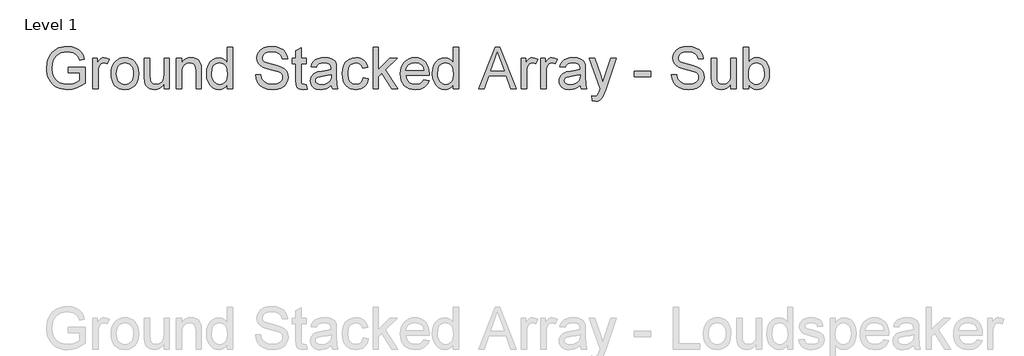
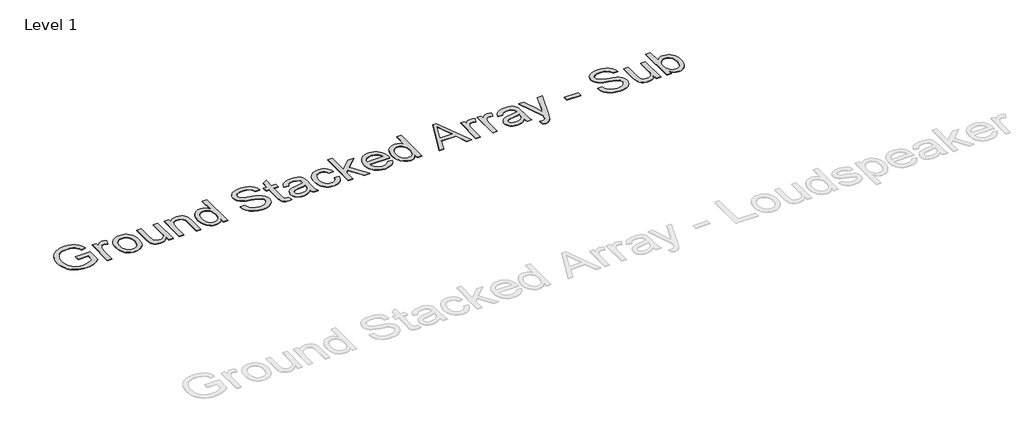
# One storey, part 17 of 31: 1 proxy.
"""IFC4 building model written with IfcOpenShell, lengths in millimetres."""

import ifcopenshell
import ifcopenshell.guid

model = None  # the IFC model being written
_history = None  # IfcOwnerHistory: only IFC2X3 demands one
_inside = {}  # id of a spatial element -> (the spatial element, [elements in it])
_under = {}  # id of a project, library or spatial element -> (it, [spatial elements below it])
_declared = {}  # id of a project -> (the project, [libraries it declares])
_typed = {}  # id of a type object -> (the type object, [elements of that type])
_made_of = {}  # id of a material, layer set ... -> (it, [elements and type objects made of it])


def new_model(schema):
    """Start an empty IFC model of exactly this schema.

    Asked for "IFC4X3", IfcOpenShell would pick the latest addendum, in which some entities
    have other attributes; the version numbers below select the first issue.
    IFC2X3 requires an IfcOwnerHistory on every rooted entity: one is made here for all.
    """
    global model, _history
    if schema == "IFC4X3":
        model = ifcopenshell.file(schema_version=(4, 3, 0, 0))
    else:
        model = ifcopenshell.file(schema=schema)
    _inside.clear()
    _under.clear()
    _declared.clear()
    _typed.clear()
    _made_of.clear()
    _history = None
    if model.schema == "IFC2X3":
        org = make("IfcOrganization", Name="unknown")
        user = make(
            "IfcPersonAndOrganization",
            ThePerson=make("IfcPerson", FamilyName="unknown"),
            TheOrganization=org,
        )
        app = make(
            "IfcApplication",
            ApplicationDeveloper=org,
            Version="unknown",
            ApplicationFullName="unknown",
            ApplicationIdentifier="unknown",
        )
        _history = make(
            "IfcOwnerHistory",
            OwningUser=user,
            OwningApplication=app,
            ChangeAction="ADDED",
            CreationDate=0,
        )
    return model


def make(cls, **values):
    """One entity of the class cls with the attributes given. An attribute that is None is left unset."""
    return model.create_entity(
        cls, **{name: value for name, value in values.items() if value is not None}
    )


def rooted(cls, **values):
    """An entity with a GlobalId (a new one), such as an element, a storey or a relation."""
    return make(cls, GlobalId=ifcopenshell.guid.new(), OwnerHistory=_history, **values)


def si_unit(unit_type, name, prefix=None):
    """IfcSIUnit, for example si_unit("LENGTHUNIT", "METRE", prefix="MILLI")."""
    return make("IfcSIUnit", UnitType=unit_type, Prefix=prefix, Name=name)


def assignment(units):
    """IfcUnitAssignment: the units of a project."""
    return None if units is None else make("IfcUnitAssignment", Units=units)


def point(xyz):
    """IfcCartesianPoint."""
    return None if xyz is None else make("IfcCartesianPoint", Coordinates=xyz)


def direction(xyz):
    """IfcDirection."""
    return None if xyz is None else make("IfcDirection", DirectionRatios=xyz)


def frame(location, z_axis=None, x_axis=None):
    """IfcAxis2Placement3D, a coordinate frame: its origin and axes. An axis left out is left unset."""
    return make(
        "IfcAxis2Placement3D",
        Location=point(location),
        Axis=direction(z_axis),
        RefDirection=direction(x_axis),
    )


def origin():
    """The frame at (0, 0, 0) with its axes left unset."""
    return frame((0.0, 0.0, 0.0))


def origin_with_axes():
    """The frame at (0, 0, 0) with the z axis (0, 0, 1) and the x axis (1, 0, 0) written out."""
    return frame((0.0, 0.0, 0.0), z_axis=(0.0, 0.0, 1.0), x_axis=(1.0, 0.0, 0.0))


def place(relative_to, where):
    """IfcLocalPlacement: puts the frame where relative to a parent placement (None: the world)."""
    return make(
        "IfcLocalPlacement", PlacementRelTo=relative_to, RelativePlacement=where
    )


def context(
    kind, dimensions, precision=None, world=None, true_north=None, identifier=None
):
    """IfcGeometricRepresentationContext, for example the 3D "Model" context."""
    return make(
        "IfcGeometricRepresentationContext",
        ContextIdentifier=identifier,
        ContextType=kind,
        CoordinateSpaceDimension=dimensions,
        Precision=precision,
        WorldCoordinateSystem=world,
        TrueNorth=true_north,
    )


def project(units=None, contexts=None):
    """IfcProject with its units and contexts."""
    return rooted(
        "IfcProject",
        Name="project",
        RepresentationContexts=contexts,
        UnitsInContext=assignment(units),
    )


def spatial(cls, under=None, at=None, **own):
    """A site, building, storey or space (cls), placed at a placement, below another one or the project."""
    s = rooted(cls, ObjectPlacement=at, **own)
    if under is not None:
        _under.setdefault(under.id(), (under, []))[1].append(s)
    return s


def polyline(points):
    """IfcPolyline through the points."""
    return make("IfcPolyline", Points=[point(p) for p in points])


def outline(outer, holes=None, kind="AREA"):
    """IfcArbitraryClosedProfileDef: a profile drawn as a closed curve; with holes, ...WithVoids."""
    if holes is None:
        return make("IfcArbitraryClosedProfileDef", ProfileType=kind, OuterCurve=outer)
    return make(
        "IfcArbitraryProfileDefWithVoids",
        ProfileType=kind,
        OuterCurve=outer,
        InnerCurves=holes,
    )


def extrude(swept, where, along, depth):
    """IfcExtrudedAreaSolid: the profile swept, set in the frame where, extruded along a direction by depth."""
    return make(
        "IfcExtrudedAreaSolid",
        SweptArea=swept,
        Position=where,
        ExtrudedDirection=direction(along),
        Depth=depth,
    )


def shape(context_of_items, identifier, shape_type, items):
    """IfcShapeRepresentation: the items that make up one representation, for example the "Body"."""
    return make(
        "IfcShapeRepresentation",
        ContextOfItems=context_of_items,
        RepresentationIdentifier=identifier,
        RepresentationType=shape_type,
        Items=items,
    )


def made_of(thing, what):
    """Note that an element or type object is made of a material, layer set ...; save() writes the relation."""
    if what is not None:
        _made_of.setdefault(what.id(), (what, []))[1].append(thing)
    return thing


def element(
    cls,
    number,
    at=None,
    inside=None,
    cuts=None,
    type_object=None,
    material=None,
    context=None,
    identifier="Body",
    shape_type=None,
    held_by="IfcProductDefinitionShape",
    body=None,
    shapes=None,
    **own,
):
    """One element of the class cls, such as IfcWall. Its Tag is "e" and its number.

    at: its placement. inside: the storey or other place that contains it. cuts: it is an
    opening in that element (IfcRelVoidsElement). A single representation is given by context,
    identifier, shape_type and body (its items); several are given by shapes. held_by: the class
    of the entity that holds the representations. save() writes the other relations.
    """
    e = rooted(cls, Tag="e%d" % number, ObjectPlacement=at, **own)
    if body is not None:
        shapes = [shape(context, identifier, shape_type, body)]
    if shapes is not None:
        e.Representation = make(held_by, Representations=shapes)
    if inside is not None:
        _inside.setdefault(inside.id(), (inside, []))[1].append(e)
    if cuts is not None:
        rooted(
            "IfcRelVoidsElement", RelatingBuildingElement=cuts, RelatedOpeningElement=e
        )
    if type_object is not None:
        _typed.setdefault(type_object.id(), (type_object, []))[1].append(e)
    return made_of(e, material)


def aggregate(whole, parts):
    """IfcRelAggregates: a whole, such as a stair, and the parts it consists of."""
    return rooted("IfcRelAggregates", RelatingObject=whole, RelatedObjects=parts)


def save(model, path):
    """Write the relations noted so far, then the file.

    IfcRelAggregates (storeys below a building ...), IfcRelContainedInSpatialStructure (elements
    in a storey), IfcRelDefinesByType, IfcRelAssociatesMaterial and IfcRelDeclares: one each for
    every whole, place, type object, material and project.
    """
    for whole, parts in _under.values():
        aggregate(whole, parts)
    for where, things in _inside.values():
        rooted(
            "IfcRelContainedInSpatialStructure",
            RelatedElements=things,
            RelatingStructure=where,
        )
    for kind, things in _typed.values():
        rooted("IfcRelDefinesByType", RelatedObjects=things, RelatingType=kind)
    for what, things in _made_of.values():
        rooted("IfcRelAssociatesMaterial", RelatedObjects=things, RelatingMaterial=what)
    for by, libraries in _declared.values():
        rooted("IfcRelDeclares", RelatingContext=by, RelatedDefinitions=libraries)
    model.write(path)


model = new_model("IFC4")

# Units and contexts
model_context = context("Model", 3, world=origin())
ifc_project = project(units=[si_unit("LENGTHUNIT", "METRE", prefix="MILLI")], contexts=[model_context])

# Site, building, storey
site = spatial("IfcSite", under=ifc_project)
building = spatial("IfcBuilding", under=site)
storey = spatial("IfcBuildingStorey", under=building, Name="Level 1", Elevation=0.0)

# Proxy
placement = place(None, origin())
element("IfcBuildingElementProxy", 1, Name="400mm Arial", ObjectType="400mm Arial", at=placement, inside=storey, context=model_context, shape_type="SweptSolid", body=[
    extrude(outline(polyline([(1908.6992468, -4440.554912), (1908.6992468, -4390.3267569), (2071.9407508, -4390.3267569), (2071.9407508, -4540.5207128), (2032.270809, -4568.1118625), (1991.3500684, -4587.9039138), (1949.2766309, -4599.8232904), (1906.1485983, -4603.796416), (1877.2974529, -4602.2175891), (1849.8013394, -4597.4811084), (1823.660258, -4589.5869739), (1798.8742085, -4578.5351857), (1776.2433345, -4564.4912905), (1756.5677791, -4547.6208353), (1739.8475424, -4527.9238202), (1726.0826244, -4505.400245), (1715.3312731, -4480.7705454), (1707.6517365, -4454.755157), (1703.0440145, -4427.3540797), (1701.5081071, -4398.5673136), (1707.627211, -4341.9748), (1715.2760908, -4315.1592683), (1725.9845226, -4289.3308865), (1739.5624339, -4265.6239576), (1755.8197524, -4245.1727844), (1774.7564781, -4227.9773668), (1796.372611, -4214.0377048), (1820.1991015, -4203.2648937), (1845.7669002, -4195.5700287), (1873.076007, -4190.9531096), (1902.1264218, -4189.4141366), (1943.5008836, -4192.982592), (1980.706016, -4203.687958), (2012.0372993, -4220.7576826), (2035.7902134, -4243.4192135), (2053.3627101, -4272.763934), (2066.1527408, -4309.8832273), (2019.8486603, -4322.9307754), (2009.5111762, -4296.4555345), (1996.9418747, -4276.4795422), (1980.3136086, -4261.4209058), (1957.7992305, -4249.6977329), (1930.9561075, -4242.156152), (1901.3416069, -4239.6422917), (1866.6748602, -4242.3523557), (1837.0358342, -4250.4825478), (1812.5348933, -4263.0150611), (1793.2824022, -4278.9320888), (1778.5058087, -4297.4120277), (1767.4325607, -4317.6332747), (1755.6603368, -4355.5496456), (1751.7362622, -4396.5071744), (1756.4574145, -4444.5403003), (1770.6208713, -4484.0630893), (1793.797437, -4514.7934986), (1825.5579159, -4536.4494854), (1862.7262602, -4549.288567), (1902.1264218, -4553.5682609), (1936.9157959, -4550.3431621), (1970.8467785, -4540.6678656), (2000.3141264, -4527.3382747), (2021.7125957, -4513.1502924), (2021.7125957, -4440.554912), (1908.6992468, -4440.554912)])), origin_with_axes(), (0.0, 0.0, 1.0), 5.0),
    extrude(outline(polyline([(2147.2829834, -4597.5178966), (2147.2829834, -4302.4274855), (2191.2326191, -4302.4274855), (2191.2326191, -4346.0828156), (2207.4684778, -4320.7725344), (2222.4290123, -4305.8610508), (2237.4385977, -4298.5769873), (2253.8216092, -4296.1489662), (2278.8375849, -4300.0239898), (2304.245968, -4311.6490609), (2287.4705491, -4356.6778171), (2269.8122133, -4348.9522952), (2252.1538775, -4346.3771212), (2237.1565549, -4348.8541933), (2223.7533875, -4356.2854096), (2212.9253941, -4368.1066844), (2205.6535933, -4383.7539319), (2199.5467522, -4411.8110654), (2197.5111385, -4442.4188474), (2197.5111385, -4597.5178966), (2147.2829834, -4597.5178966)])), origin_with_axes(), (0.0, 0.0, 1.0), 5.0),
    extrude(outline(polyline([(2323.0815262, -4449.9726911), (2325.7977216, -4411.7558831), (2333.9463078, -4378.8243132), (2347.5272848, -4351.1779813), (2366.5406526, -4328.8168873), (2385.682779, -4314.5246718), (2406.8114683, -4304.3159465), (2429.9267203, -4298.1907112), (2455.0285351, -4296.1489662), (2482.7392464, -4298.6352353), (2507.795076, -4306.0940428), (2530.1960238, -4318.5253885), (2549.9420899, -4335.9292726), (2566.058387, -4357.7170837), (2577.5700277, -4383.3002108), (2584.4770122, -4412.6786538), (2586.7793403, -4445.8524127), (2582.7081129, -4496.5956026), (2570.4944307, -4535.2232121), (2550.4939129, -4564.1509996), (2523.0621788, -4585.7947237), (2490.4800967, -4599.2959929), (2455.0285351, -4603.796416), (2426.9131536, -4601.3193439), (2401.6243322, -4593.8881276), (2379.1620707, -4581.5027671), (2359.5263692, -4564.1632624), (2343.5817504, -4542.1639191), (2332.1927369, -4515.7990427), (2325.3593289, -4485.0686334), (2323.0815262, -4449.9726911)]), holes=[polyline([(2373.3096813, -4449.8745892), (2374.7628152, -4474.2375743), (2379.1222168, -4495.3325411), (2386.3878862, -4513.1594894), (2396.5598234, -4527.7184194), (2408.9329211, -4539.0277251), (2422.8020724, -4547.1058005), (2438.167277, -4551.9526458), (2455.0285351, -4553.5682609), (2471.8039541, -4551.9434488), (2487.1078451, -4547.0690123), (2500.9402081, -4538.9449516), (2513.3010432, -4527.5712666), (2523.4729803, -4512.8682495), (2530.7386497, -4494.7561926), (2535.0980514, -4473.2350959), (2536.5511853, -4448.3049594), (2535.0888543, -4424.7145264), (2530.7018615, -4404.1713827), (2523.3902069, -4386.6755281), (2513.1538904, -4372.2269628), (2500.7470701, -4360.9176571), (2486.9239041, -4352.8395816), (2471.6843925, -4347.9927363), (2455.0285351, -4346.3771212), (2438.167277, -4347.986605), (2422.8020724, -4352.8150562), (2408.9329211, -4360.8624748), (2396.5598234, -4372.1288609), (2386.3878862, -4386.6448713), (2379.1222168, -4404.4411628), (2374.7628152, -4425.5177354), (2373.3096813, -4449.8745892)])]), origin_with_axes(), (0.0, 0.0, 1.0), 5.0),
    extrude(outline(polyline([(2831.6415963, -4597.5178966), (2831.6415963, -4546.7992322), (2813.4682258, -4571.7355001), (2792.3027483, -4589.54712), (2768.145164, -4600.234092), (2740.9954727, -4603.796416), (2716.53132, -4601.2948184), (2693.7594245, -4593.7900257), (2674.6540863, -4582.5083112), (2661.1896052, -4568.6759482), (2652.1274454, -4551.8760037), (2646.2290708, -4531.6915449), (2643.2860148, -4484.995057), (2643.2860148, -4302.4274855), (2693.5141699, -4302.4274855), (2693.5141699, -4461.3525075), (2696.5553277, -4512.5616812), (2703.8761794, -4529.6436685), (2716.4209554, -4542.6299029), (2733.3557899, -4550.8336714), (2753.8468171, -4553.5682609), (2775.5150666, -4550.7723578), (2795.7853645, -4542.3846483), (2812.4994698, -4529.1776846), (2823.4991415, -4511.9240191), (2829.6059826, -4488.2937322), (2831.6415963, -4455.9569049), (2831.6415963, -4302.4274855), (2881.8697514, -4302.4274855), (2881.8697514, -4597.5178966), (2831.6415963, -4597.5178966)])), origin_with_axes(), (0.0, 0.0, 1.0), 5.0),
    extrude(outline(polyline([(2950.9334646, -4597.5178966), (2950.9334646, -4302.4274855), (3001.1616197, -4302.4274855), (3001.1616197, -4343.630269), (3018.611489, -4322.857199), (3039.5685, -4308.0192919), (3064.0326527, -4299.1165476), (3092.003947, -4296.1489662), (3116.7624053, -4298.5401991), (3139.436199, -4305.713898), (3158.3453335, -4316.7748834), (3171.8098145, -4330.8279756), (3180.9455507, -4347.8363865), (3186.8684509, -4367.7633279), (3189.5172012, -4416.3237513), (3189.5172012, -4597.5178966), (3139.2890462, -4597.5178966), (3139.2890462, -4423.09278), (3137.8420436, -4397.1203111), (3133.5010361, -4378.6526349), (3125.4934713, -4365.4211459), (3113.0467972, -4355.1572382), (3097.0929813, -4348.5721505), (3078.5639915, -4346.3771212), (3049.1456946, -4351.30674), (3024.0684053, -4366.0955962), (3014.0466866, -4378.168257), (3006.8883161, -4394.6677645), (3002.5932938, -4415.5941186), (3001.1616197, -4440.9473195), (3001.1616197, -4597.5178966), (2950.9334646, -4597.5178966)])), origin_with_axes(), (0.0, 0.0, 1.0), 5.0),
    extrude(outline(polyline([(3440.6579766, -4597.5178966), (3440.6579766, -4550.1346956), (3425.6299971, -4573.6116983), (3407.4259697, -4590.3809859), (3386.0458944, -4600.4425585), (3361.4897712, -4603.796416), (3329.0180538, -4598.9403737), (3299.2931886, -4584.3722466), (3274.1300601, -4561.1098418), (3255.3435529, -4530.170966), (3243.6449055, -4492.806418), (3239.7453563, -4450.2669967), (3243.3383371, -4408.2548728), (3254.1172796, -4370.3139764), (3272.069921, -4338.6025484), (3297.1839985, -4315.2788299), (3327.5587886, -4300.9314321), (3361.2935675, -4296.1489662), (3385.8680848, -4299.5702687), (3407.597648, -4309.8341764), (3426.0162732, -4325.567263), (3440.6579766, -4345.3961026), (3440.6579766, -4195.692656), (3490.8861317, -4195.692656), (3490.8861317, -4597.5178966), (3440.6579766, -4597.5178966)]), holes=[polyline([(3289.9735114, -4450.0707929), (3291.3898571, -4474.4276467), (3295.6388941, -4495.5042193), (3302.7206225, -4513.3005109), (3312.6350423, -4527.8165213), (3337.3321869, -4547.130326), (3351.2074695, -4551.9587772), (3366.1005589, -4553.5682609), (3381.0641591, -4552.0323536), (3394.8566682, -4547.4246316), (3418.9284134, -4528.9937436), (3428.4350973, -4515.0847385), (3435.2255858, -4497.9322405), (3440.6579766, -4453.8967657), (3435.1274839, -4405.7532753), (3428.2143681, -4387.2181541), (3418.536006, -4372.3741156), (3406.8342928, -4361.0004305), (3393.8511241, -4352.8763698), (3379.5864997, -4348.0019334), (3364.0404197, -4346.3771212), (3348.8530247, -4347.937554), (3334.9777421, -4352.6188524), (3322.414572, -4360.4210164), (3311.1635143, -4371.344046), (3301.892888, -4385.6270644), (3295.2710121, -4403.5091951), (3289.9735114, -4450.0707929)])]), origin_with_axes(), (0.0, 0.0, 1.0), 5.0),
    extrude(outline(polyline([(3710.6343101, -4459.3904702), (3760.8624652, -4459.3904702), (3766.6259498, -4487.2636627), (3777.049273, -4509.6676762), (3793.3096572, -4527.4486393), (3816.5843247, -4541.4526805), (3845.0338657, -4550.5393658), (3876.8188701, -4553.5682609), (3904.8024272, -4551.2751298), (3929.3033681, -4544.3957365), (3949.1567331, -4533.5064294), (3963.1975626, -4519.1835571), (3971.5484838, -4502.7392319), (3974.3321243, -4485.4855663), (3972.2474596, -4468.6733592), (3965.9934657, -4454.1420204), (3953.2892742, -4441.7443971), (3931.8540166, -4431.3333367), (3858.7190759, -4412.154422), (3810.7104756, -4399.4624931), (3779.992329, -4387.383701), (3754.988616, -4370.4856547), (3737.2689666, -4350.0068903), (3726.7107533, -4326.3888662), (3723.1913489, -4300.0730408), (3727.5446192, -4270.6547439), (3740.60443, -4243.2230098), (3762.0274249, -4219.9728677), (3791.4702472, -4203.0993468), (3826.8114442, -4192.8354392), (3865.929563, -4189.4141366), (3908.3095689, -4192.9948547), (3945.392074, -4203.737009), (3975.8527032, -4221.4198702), (3998.3670813, -4245.8227092), (4012.6163772, -4275.4249471), (4018.28176, -4308.7060049), (3968.0536049, -4308.7060049), (3958.8320295, -4278.7358851), (3950.4688455, -4266.8778221), (3939.6040639, -4257.1044237), (3909.5603677, -4244.0078247), (3867.8916003, -4239.6422917), (3825.2418144, -4243.9587738), (3808.9385106, -4249.3543764), (3795.982933, -4256.90822), (3779.0603612, -4275.9645074), (3773.419504, -4298.6015128), (3777.417155, -4317.9030548), (3789.410108, -4333.427675), (3817.7615471, -4347.309089), (3871.4232675, -4361.4848085), (3926.8017705, -4374.9492895), (3960.3035575, -4386.6969879), (3988.9370395, -4404.9194094), (4008.9130318, -4427.409262), (4020.6484675, -4453.9212912), (4024.5602794, -4484.2102421), (4020.0598563, -4515.1736434), (4006.5585871, -4544.2976346), (3984.6082947, -4569.3626612), (3954.7608021, -4588.1491685), (3918.8677821, -4599.8846041), (3878.7809074, -4603.796416), (3829.5705592, -4599.5780358), (3789.0667515, -4586.9228951), (3756.8035005, -4565.7819432), (3732.3148224, -4536.1061289), (3716.5939985, -4499.9555915), (3710.6343101, -4459.3904702)])), origin_with_axes(), (0.0, 0.0, 1.0), 5.0),
    extrude(outline(polyline([(4200.3588221, -4555.6284001), (4206.6373415, -4598.9894246), (4169.0643271, -4603.796416), (4144.9557936, -4601.7117514), (4126.9786268, -4595.4577574), (4114.2744352, -4585.8192492), (4105.9848276, -4573.5810415), (4101.4230909, -4552.5627168), (4099.902512, -4516.5838577), (4099.902512, -4352.6556406), (4062.2313957, -4352.6556406), (4062.2313957, -4302.4274855), (4099.902512, -4302.4274855), (4099.902512, -4230.715022), (4150.130667, -4201.1863605), (4150.130667, -4302.4274855), (4200.3588221, -4302.4274855), (4200.3588221, -4352.6556406), (4150.130667, -4352.6556406), (4150.130667, -4515.1123297), (4152.7794174, -4541.0112221), (4161.3633306, -4550.1837466), (4178.4821061, -4553.5682609), (4200.3588221, -4555.6284001)])), origin_with_axes(), (0.0, 0.0, 1.0), 5.0),
    extrude(outline(polyline([(4438.9425587, -4559.8467803), (4414.9443899, -4580.4236466), (4390.2349826, -4593.8881276), (4364.250251, -4601.3193439), (4336.4261094, -4603.796416), (4314.0619498, -4602.3064939), (4294.4507737, -4597.8367277), (4277.5925813, -4590.3871173), (4263.4873725, -4579.9576627), (4252.3497451, -4567.2105516), (4244.3942969, -4552.8079715), (4239.6210281, -4536.7499224), (4238.0299384, -4519.0364043), (4240.4334341, -4498.2142834), (4247.6439212, -4479.3051488), (4258.7662202, -4463.118341), (4272.9051516, -4450.4632004), (4289.521155, -4440.8982685), (4308.0746703, -4433.982087), (4351.5337967, -4426.4282434), (4402.8901232, -4418.4819923), (4438.6482531, -4409.1623151), (4438.9425587, -4397.9787024), (4435.484468, -4375.5624262), (4425.1101957, -4360.8961973), (4401.9091045, -4350.0068903), (4369.5845399, -4346.3771212), (4339.663471, -4348.7928797), (4318.7677736, -4356.040155), (4304.5184777, -4369.4433223), (4294.5366129, -4390.3267569), (4244.3084578, -4384.0482375), (4253.0272611, -4356.5797152), (4266.038021, -4334.9973049), (4284.5547481, -4318.491666), (4309.7914529, -4306.2534583), (4340.6567523, -4298.6750892), (4376.059263, -4296.1489662), (4410.0147712, -4298.3807836), (4436.9314705, -4305.0762359), (4457.2262939, -4315.1439398), (4471.3161743, -4327.4925121), (4480.660377, -4342.7596149), (4486.7181672, -4361.5829104), (4489.1707138, -4405.5325461), (4489.1707138, -4468.0234343), (4491.7213623, -4555.2850436), (4501.7277526, -4597.5178966), (4451.4995975, -4597.5178966), (4443.4552445, -4580.0557646), (4438.9425587, -4559.8467803)]), holes=[polyline([(4438.9425587, -4459.3904702), (4405.195517, -4467.7536542), (4357.9104179, -4474.792463), (4314.6965462, -4482.9349178), (4303.4516199, -4488.5021987), (4295.1252241, -4496.1786697), (4289.9748761, -4505.3757195), (4288.2580935, -4515.5047372), (4291.9982271, -4530.4407462), (4303.218628, -4542.6789539), (4321.6740414, -4550.8459342), (4347.1192127, -4553.5682609), (4374.0972257, -4550.5638913), (4397.935979, -4541.5507824), (4417.2620465, -4528.2702424), (4430.702002, -4512.4635793), (4436.6616904, -4496.1786697), (4438.6482531, -4473.6152406), (4438.9425587, -4459.3904702)])]), origin_with_axes(), (0.0, 0.0, 1.0), 5.0),
    extrude(outline(polyline([(4746.5900086, -4490.7830671), (4796.8181636, -4497.0615865), (4791.355116, -4520.762384), (4782.8141223, -4541.7347234), (4771.1951827, -4559.9786047), (4756.498297, -4575.4940278), (4739.3427332, -4587.8763227), (4720.3477596, -4596.720819), (4699.5133759, -4602.0275167), (4676.8395823, -4603.796416), (4648.6690185, -4601.3285409), (4623.4108538, -4593.9249158), (4601.0650883, -4581.5855405), (4581.6317219, -4564.3104152), (4565.9017009, -4542.4245021), (4554.6659717, -4516.2527639), (4547.9245341, -4485.7952004), (4545.6773883, -4451.0518116), (4549.5156237, -4406.3541492), (4561.0303302, -4367.6161751), (4580.4054486, -4336.3339428), (4607.82492, -4314.0035057), (4640.6277312, -4300.612601), (4676.1528692, -4296.1489662), (4698.4373211, -4297.6818078), (4718.5941887, -4302.2803327), (4736.6234722, -4309.944541), (4752.5251714, -4320.6744325), (4766.0295063, -4334.2247527), (4776.8666968, -4350.3502468), (4785.0367427, -4369.0509149), (4790.5396442, -4390.3267569), (4740.3114892, -4396.6052763), (4731.2002784, -4374.6917721), (4717.0122961, -4358.9832109), (4698.5323573, -4349.5286437), (4676.5452767, -4346.3771212), (4659.4786178, -4347.928357), (4644.085822, -4352.5820642), (4630.3668892, -4360.338243), (4618.3218196, -4371.1968932), (4608.5146987, -4385.4094009), (4601.5096124, -4403.2271522), (4597.3065606, -4424.6501471), (4595.9055433, -4449.6783855), (4601.3869851, -4496.7550181), (4608.2387872, -4514.6923311), (4617.8313102, -4528.8956418), (4629.6372566, -4539.6899127), (4643.1293288, -4547.4001061), (4658.3075268, -4552.0262222), (4675.1718506, -4553.5682609), (4701.1811076, -4549.7177627), (4722.5060006, -4538.1662681), (4738.0183581, -4518.6194714), (4746.5900086, -4490.7830671)])), origin_with_axes(), (0.0, 0.0, 1.0), 5.0),
    extrude(outline(polyline([(4840.7677993, -4597.5178966), (4840.7677993, -4195.692656), (4890.9959544, -4195.692656), (4890.9959544, -4411.6148617), (5003.6168959, -4302.4274855), (5073.0730165, -4302.4274855), (4958.9805471, -4412.9882878), (5079.3515359, -4597.5178966), (5020.6866204, -4597.5178966), (4922.9771625, -4447.9125519), (4890.9959544, -4479.0108432), (4890.9959544, -4597.5178966), (4840.7677993, -4597.5178966)])), origin_with_axes(), (0.0, 0.0, 1.0), 5.0),
    extrude(outline(polyline([(5329.9037001, -4509.6186252), (5379.1508365, -4515.8971446), (5371.6000586, -4535.6217509), (5361.4066616, -4553.0041752), (5348.5706457, -4568.0444174), (5333.0920107, -4580.7424776), (5315.1301723, -4590.8285757), (5294.844546, -4598.0329314), (5247.3019295, -4603.796416), (5216.1361931, -4601.3101468), (5188.3672338, -4593.8513394), (5163.9950516, -4581.4199936), (5143.0196466, -4564.0161096), (5126.1522571, -4542.1240652), (5114.1041217, -4516.2282384), (5106.8752405, -4486.3286292), (5104.4656135, -4452.4252377), (5106.899766, -4417.3722149), (5114.2022236, -4386.4762587), (5126.3729863, -4359.737369), (5143.412054, -4337.1555459), (5164.3322768, -4319.2151673), (5188.1465046, -4306.4006111), (5214.8547375, -4298.7118774), (5244.4569754, -4296.1489662), (5273.1057857, -4298.705746), (5299.0138752, -4306.3760856), (5322.1812439, -4319.159985), (5342.6078917, -4337.057444), (5359.2821431, -4359.5902162), (5371.1923227, -4386.280055), (5378.3384305, -4417.1269603), (5380.7204664, -4452.1309321), (5380.4261608, -4465.6689895), (5154.6937685, -4465.6689895), (5157.603102, -4485.7124269), (5163.3880464, -4503.2665294), (5172.0486017, -4518.3312971), (5183.5847679, -4530.90673), (5197.3588829, -4540.8211498), (5212.7332846, -4547.9028782), (5248.2829481, -4553.5682609), (5275.0157064, -4550.944036), (5297.5300845, -4543.0713613), (5315.8260824, -4529.4597275), (5329.9037001, -4509.6186252)]), holes=[polyline([(5154.6937685, -4415.4408345), (5330.4923113, -4415.4408345), (5323.6987571, -4388.9042799), (5310.3814289, -4369.9215689), (5296.6839559, -4359.6208731), (5281.0980221, -4352.2632332), (5263.6236273, -4347.8486492), (5244.2607716, -4346.3771212), (5210.4033653, -4351.073748), (5182.4075455, -4365.1636285), (5162.946588, -4387.1261836), (5154.6937685, -4415.4408345)])]), origin_with_axes(), (0.0, 0.0, 1.0), 5.0),
    extrude(outline(polyline([(5613.0256836, -4597.5178966), (5613.0256836, -4550.1346956), (5597.9977041, -4573.6116983), (5579.7936767, -4590.3809859), (5558.4136014, -4600.4425585), (5533.8574782, -4603.796416), (5501.3857608, -4598.9403737), (5471.6608956, -4584.3722466), (5446.4977671, -4561.1098418), (5427.7112599, -4530.170966), (5416.0126124, -4492.806418), (5412.1130633, -4450.2669967), (5415.7060441, -4408.2548728), (5426.4849866, -4370.3139764), (5444.4376279, -4338.6025484), (5469.5517055, -4315.2788299), (5499.9264955, -4300.9314321), (5533.6612745, -4296.1489662), (5558.2357918, -4299.5702687), (5579.965355, -4309.8341764), (5598.3839802, -4325.567263), (5613.0256836, -4345.3961026), (5613.0256836, -4195.692656), (5663.2538387, -4195.692656), (5663.2538387, -4597.5178966), (5613.0256836, -4597.5178966)]), holes=[polyline([(5462.3412184, -4450.0707929), (5463.7575641, -4474.4276467), (5468.0066011, -4495.5042193), (5475.0883295, -4513.3005109), (5485.0027493, -4527.8165213), (5509.6998939, -4547.130326), (5523.5751765, -4551.9587772), (5538.4682659, -4553.5682609), (5553.4318661, -4552.0323536), (5567.2243752, -4547.4246316), (5591.2961204, -4528.9937436), (5600.8028043, -4515.0847385), (5607.5932928, -4497.9322405), (5613.0256836, -4453.8967657), (5607.4951909, -4405.7532753), (5600.5820751, -4387.2181541), (5590.903713, -4372.3741156), (5579.2019998, -4361.0004305), (5566.2188311, -4352.8763698), (5551.9542067, -4348.0019334), (5536.4081267, -4346.3771212), (5521.2207317, -4347.937554), (5507.3454491, -4352.6188524), (5494.782279, -4360.4210164), (5483.5312213, -4371.344046), (5474.260595, -4385.6270644), (5467.6387191, -4403.5091951), (5462.3412184, -4450.0707929)])]), origin_with_axes(), (0.0, 0.0, 1.0), 5.0),
    extrude(outline(polyline([(5855.1410874, -4597.5178966), (6015.5376373, -4195.692656), (6058.3100506, -4195.692656), (6218.6084986, -4597.5178966), (6165.5353894, -4597.5178966), (6119.6237164, -4471.9475089), (5954.0277677, -4471.9475089), (5908.1160947, -4597.5178966), (5855.1410874, -4597.5178966)]), holes=[polyline([(5972.4709183, -4421.7193538), (6101.2786676, -4421.7193538), (6064.9809774, -4322.9307754), (6036.825742, -4245.9208111), (6011.8097664, -4314.2978113), (5972.4709183, -4421.7193538)])]), origin_with_axes(), (0.0, 0.0, 1.0), 5.0),
    extrude(outline(polyline([(6265.9916996, -4597.5178966), (6265.9916996, -4302.4274855), (6309.9413353, -4302.4274855), (6309.9413353, -4346.0828156), (6326.177194, -4320.7725344), (6341.1377284, -4305.8610508), (6356.1473139, -4298.5769873), (6372.5303254, -4296.1489662), (6397.546301, -4300.0239898), (6422.9546842, -4311.6490609), (6406.1792652, -4356.6778171), (6388.5209294, -4348.9522952), (6370.8625937, -4346.3771212), (6355.865271, -4348.8541933), (6342.4621036, -4356.2854096), (6331.6341102, -4368.1066844), (6324.3623095, -4383.7539319), (6318.2554683, -4411.8110654), (6316.2198546, -4442.4188474), (6316.2198546, -4597.5178966), (6265.9916996, -4597.5178966)])), origin_with_axes(), (0.0, 0.0, 1.0), 5.0),
    extrude(outline(polyline([(6454.3472811, -4597.5178966), (6454.3472811, -4302.4274855), (6498.2969168, -4302.4274855), (6498.2969168, -4346.0828156), (6514.5327755, -4320.7725344), (6529.49331, -4305.8610508), (6544.5028954, -4298.5769873), (6560.8859069, -4296.1489662), (6585.9018826, -4300.0239898), (6611.3102657, -4311.6490609), (6594.5348467, -4356.6778171), (6576.876511, -4348.9522952), (6559.2181752, -4346.3771212), (6544.2208525, -4348.8541933), (6530.8176852, -4356.2854096), (6519.9896918, -4368.1066844), (6512.717891, -4383.7539319), (6506.6110499, -4411.8110654), (6504.5754362, -4442.4188474), (6504.5754362, -4597.5178966), (6454.3472811, -4597.5178966)])), origin_with_axes(), (0.0, 0.0, 1.0), 5.0),
    extrude(outline(polyline([(6831.0584442, -4559.8467803), (6807.0602753, -4580.4236466), (6782.350868, -4593.8881276), (6756.3661364, -4601.3193439), (6728.5419948, -4603.796416), (6706.1778352, -4602.3064939), (6686.5666592, -4597.8367277), (6669.7084668, -4590.3871173), (6655.6032579, -4579.9576627), (6644.4656305, -4567.2105516), (6636.5101824, -4552.8079715), (6631.7369135, -4536.7499224), (6630.1458239, -4519.0364043), (6632.5493196, -4498.2142834), (6639.7598067, -4479.3051488), (6650.8821057, -4463.118341), (6665.021037, -4450.4632004), (6681.6370405, -4440.8982685), (6700.1905557, -4433.982087), (6743.6496821, -4426.4282434), (6795.0060086, -4418.4819923), (6830.7641386, -4409.1623151), (6831.0584442, -4397.9787024), (6827.6003534, -4375.5624262), (6817.2260811, -4360.8961973), (6794.02499, -4350.0068903), (6761.7004253, -4346.3771212), (6731.7793564, -4348.7928797), (6710.8836591, -4356.040155), (6696.6343631, -4369.4433223), (6686.6524983, -4390.3267569), (6636.4243432, -4384.0482375), (6645.1431465, -4356.5797152), (6658.1539064, -4334.9973049), (6676.6706335, -4318.491666), (6701.9073384, -4306.2534583), (6732.7726378, -4298.6750892), (6768.1751484, -4296.1489662), (6802.1306566, -4298.3807836), (6829.0473559, -4305.0762359), (6849.3421793, -4315.1439398), (6863.4320597, -4327.4925121), (6872.7762624, -4342.7596149), (6878.8340526, -4361.5829104), (6881.2865992, -4405.5325461), (6881.2865992, -4468.0234343), (6883.8372477, -4555.2850436), (6893.843638, -4597.5178966), (6843.6154829, -4597.5178966), (6835.57113, -4580.0557646), (6831.0584442, -4559.8467803)]), holes=[polyline([(6831.0584442, -4459.3904702), (6797.3114025, -4467.7536542), (6750.0263034, -4474.792463), (6706.8124317, -4482.9349178), (6695.5675053, -4488.5021987), (6687.2411095, -4496.1786697), (6682.0907616, -4505.3757195), (6680.3739789, -4515.5047372), (6684.1141126, -4530.4407462), (6695.3345134, -4542.6789539), (6713.7899268, -4550.8459342), (6739.2350982, -4553.5682609), (6766.2131111, -4550.5638913), (6790.0518644, -4541.5507824), (6809.3779319, -4528.2702424), (6822.8178875, -4512.4635793), (6828.7775758, -4496.1786697), (6830.7641386, -4473.6152406), (6831.0584442, -4459.3904702)])]), origin_with_axes(), (0.0, 0.0, 1.0), 5.0),
    extrude(outline(polyline([(6950.3503125, -4710.5312455), (6944.0717931, -4662.1670259), (6969.5782781, -4666.5816098), (6982.9937082, -4665.195921), (6993.4170314, -4661.0388544), (7008.0342093, -4645.5878106), (7021.7684705, -4608.6034074), (7025.6925451, -4596.4387761), (6918.9577155, -4302.4274855), (6971.834621, -4302.4274855), (7028.5374992, -4466.3557026), (7048.2559741, -4531.8877487), (7067.9744491, -4473.9095462), (7126.1488552, -4302.4274855), (7178.6333532, -4302.4274855), (7075.9207001, -4604.5812309), (7049.2369928, -4670.113277), (7035.576308, -4691.0334998), (7020.1007387, -4705.5280504), (7002.1480974, -4713.9893363), (6981.0561963, -4716.8097649), (6950.3503125, -4710.5312455)])), origin_with_axes(), (0.0, 0.0, 1.0), 5.0),
    extrude(outline(polyline([(7352.1755531, -4478.2260283), (7352.1755531, -4427.9978732), (7509.1385377, -4427.9978732), (7509.1385377, -4478.2260283), (7352.1755531, -4478.2260283)])), origin_with_axes(), (0.0, 0.0, 1.0), 5.0),
    extrude(outline(polyline([(7710.051158, -4459.3904702), (7760.279313, -4459.3904702), (7766.0427976, -4487.2636627), (7776.4661208, -4509.6676762), (7792.726505, -4527.4486393), (7816.0011726, -4541.4526805), (7844.4507135, -4550.5393658), (7876.2357179, -4553.5682609), (7904.219275, -4551.2751298), (7928.7202159, -4544.3957365), (7948.5735809, -4533.5064294), (7962.6144104, -4519.1835571), (7970.9653317, -4502.7392319), (7973.7489721, -4485.4855663), (7971.6643075, -4468.6733592), (7965.4103136, -4454.1420204), (7952.706122, -4441.7443971), (7931.2708644, -4431.3333367), (7858.1359238, -4412.154422), (7810.1273234, -4399.4624931), (7779.4091768, -4387.383701), (7754.4054639, -4370.4856547), (7736.6858144, -4350.0068903), (7726.1276012, -4326.3888662), (7722.6081967, -4300.0730408), (7726.961467, -4270.6547439), (7740.0212778, -4243.2230098), (7761.4442727, -4219.9728677), (7790.887095, -4203.0993468), (7826.228292, -4192.8354392), (7865.3464109, -4189.4141366), (7907.7264167, -4192.9948547), (7944.8089218, -4203.737009), (7975.269551, -4221.4198702), (7997.7839291, -4245.8227092), (8012.0332251, -4275.4249471), (8017.6986078, -4308.7060049), (7967.4704527, -4308.7060049), (7958.2488774, -4278.7358851), (7949.8856934, -4266.8778221), (7939.0209118, -4257.1044237), (7908.9772155, -4244.0078247), (7867.3084482, -4239.6422917), (7824.6586622, -4243.9587738), (7808.3553584, -4249.3543764), (7795.3997808, -4256.90822), (7778.4772091, -4275.9645074), (7772.8363518, -4298.6015128), (7776.8340028, -4317.9030548), (7788.8269559, -4333.427675), (7817.178395, -4347.309089), (7870.8401153, -4361.4848085), (7926.2186183, -4374.9492895), (7959.7204054, -4386.6969879), (7988.3538873, -4404.9194094), (8008.3298797, -4427.409262), (8020.0653153, -4453.9212912), (8023.9771272, -4484.2102421), (8019.4767041, -4515.1736434), (8005.9754349, -4544.2976346), (7984.0251425, -4569.3626612), (7954.17765, -4588.1491685), (7918.28463, -4599.8846041), (7878.1977552, -4603.796416), (7828.987407, -4599.5780358), (7788.4835993, -4586.9228951), (7756.2203484, -4565.7819432), (7731.7316702, -4536.1061289), (7716.0108463, -4499.9555915), (7710.051158, -4459.3904702)])), origin_with_axes(), (0.0, 0.0, 1.0), 5.0),
    extrude(outline(polyline([(8281.3964219, -4597.5178966), (8281.3964219, -4546.7992322), (8263.2230514, -4571.7355001), (8242.0575739, -4589.54712), (8217.8999896, -4600.234092), (8190.7502983, -4603.796416), (8166.2861457, -4601.2948184), (8143.5142502, -4593.7900257), (8124.4089119, -4582.5083112), (8110.9444308, -4568.6759482), (8101.882271, -4551.8760037), (8095.9838964, -4531.6915449), (8093.0408404, -4484.995057), (8093.0408404, -4302.4274855), (8143.2689955, -4302.4274855), (8143.2689955, -4461.3525075), (8146.3101533, -4512.5616812), (8153.631005, -4529.6436685), (8166.1757811, -4542.6299029), (8183.1106156, -4550.8336714), (8203.6016427, -4553.5682609), (8225.2698922, -4550.7723578), (8245.5401901, -4542.3846483), (8262.2542955, -4529.1776846), (8273.2539671, -4511.9240191), (8279.3608082, -4488.2937322), (8281.3964219, -4455.9569049), (8281.3964219, -4302.4274855), (8331.624577, -4302.4274855), (8331.624577, -4597.5178966), (8281.3964219, -4597.5178966)])), origin_with_axes(), (0.0, 0.0, 1.0), 5.0),
    extrude(outline(polyline([(8450.9164453, -4597.5178966), (8400.6882902, -4597.5178966), (8400.6882902, -4195.692656), (8450.9164453, -4195.692656), (8450.9164453, -4344.7093895), (8467.4343469, -4323.4642043), (8486.0859641, -4308.289072), (8506.8712968, -4299.1839926), (8529.7903451, -4296.1489662), (8555.6647121, -4298.8835557), (8580.116602, -4307.0873241), (8601.7480633, -4320.2452368), (8619.1611444, -4337.8422589), (8632.8095665, -4359.7067122), (8643.1470505, -4385.6669183), (8649.6585618, -4414.6437568), (8651.8290656, -4445.5581071), (8649.5819198, -4481.2303979), (8642.8404822, -4512.6107321), (8631.6047529, -4539.6991097), (8615.874732, -4562.4955307), (8596.9931886, -4580.564668), (8576.302892, -4593.4711947), (8553.8038423, -4601.2151107), (8529.4960395, -4603.796416), (8505.8228331, -4600.4670839), (8484.8351653, -4590.4790878), (8466.533036, -4573.8324275), (8450.9164453, -4550.5271031), (8450.9164453, -4597.5178966)]), holes=[polyline([(8450.9164453, -4447.9125519), (8454.3500106, -4489.8020484), (8464.6507065, -4518.1534875), (8476.8214691, -4533.6474509), (8490.9665319, -4544.7145676), (8507.0858946, -4551.3548376), (8525.1795574, -4553.5682609), (8540.2014056, -4551.9373174), (8554.1686586, -4547.0444869), (8567.0813167, -4538.8897693), (8578.9393796, -4527.4731647), (8588.8537994, -4512.82533), (8595.9355278, -4494.9769218), (8600.1845649, -4473.9279403), (8601.6009105, -4449.6783855), (8596.1685197, -4403.7176615), (8589.3780313, -4385.9244357), (8579.8713474, -4371.5893006), (8568.4394144, -4360.5589721), (8555.8731785, -4352.6801661), (8542.1726399, -4347.9528824), (8527.3377985, -4346.3771212), (8512.3159503, -4348.0080647), (8498.3486972, -4352.9008953), (8485.4360392, -4361.0556128), (8473.5779762, -4372.4722174), (8463.6635565, -4386.9728994), (8456.581828, -4404.3798491), (8452.332791, -4424.6930666), (8450.9164453, -4447.9125519)])]), origin_with_axes(), (0.0, 0.0, 1.0), 5.0),
])

save(model, "model.ifc")
